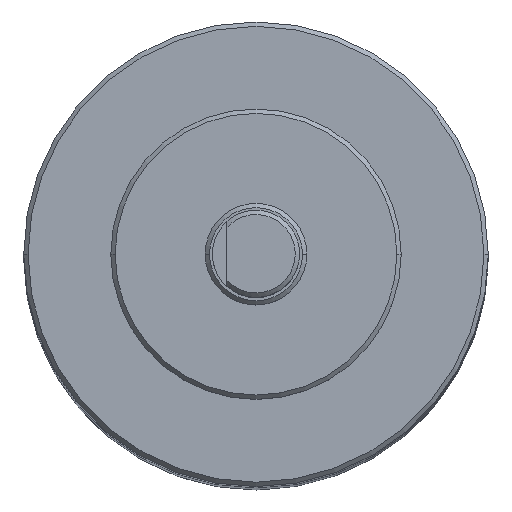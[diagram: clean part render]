
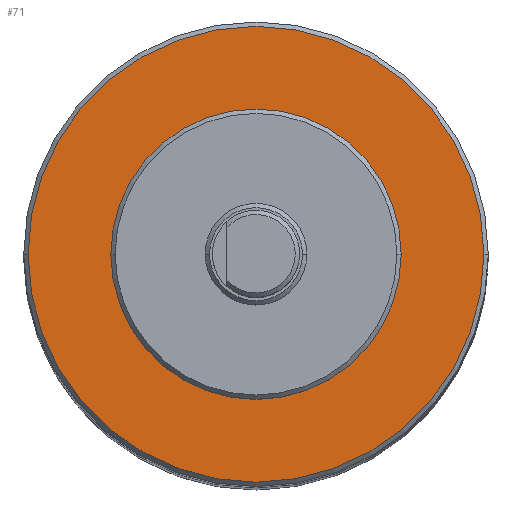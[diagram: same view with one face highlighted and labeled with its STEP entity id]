
A CAD part, top view. The second image highlights one B-rep face of the part: STEP entity #71.
In plain terms, the highlighted planar face has unit normal (0, 0, 1).
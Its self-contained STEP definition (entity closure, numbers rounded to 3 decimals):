
#22 = VERTEX_POINT ( 'NONE', #846 ) ;
#30 = EDGE_LOOP ( 'NONE', ( #945, #189 ) ) ;
#52 = DIRECTION ( 'NONE',  ( 1., 0., 0. ) ) ;
#64 = DIRECTION ( 'NONE',  ( 1., 0., 0. ) ) ;
#71 = ADVANCED_FACE ( 'NONE', ( #689, #796 ), #1006, .T. ) ;
#96 = CARTESIAN_POINT ( 'NONE',  ( 0., 0., 136.2 ) ) ;
#165 = DIRECTION ( 'NONE',  ( 1., 0., 0. ) ) ;
#189 = ORIENTED_EDGE ( 'NONE', *, *, #406, .T. ) ;
#203 = CARTESIAN_POINT ( 'NONE',  ( -10., 0., 136.2 ) ) ;
#243 = CIRCLE ( 'NONE', #769, 15.7 ) ;
#257 = DIRECTION ( 'NONE',  ( 0., 0., -1. ) ) ;
#266 = AXIS2_PLACEMENT_3D ( 'NONE', #1318, #895, #1338 ) ;
#333 = AXIS2_PLACEMENT_3D ( 'NONE', #800, #257, #165 ) ;
#406 = EDGE_CURVE ( 'NONE', #816, #1100, #974, .T. ) ;
#583 = EDGE_CURVE ( 'NONE', #22, #858, #243, .T. ) ;
#655 = CIRCLE ( 'NONE', #1015, 15.7 ) ;
#674 = EDGE_CURVE ( 'NONE', #1100, #816, #1293, .T. ) ;
#689 = FACE_BOUND ( 'NONE', #30, .T. ) ;
#739 = DIRECTION ( 'NONE',  ( 1., 0., 0. ) ) ;
#769 = AXIS2_PLACEMENT_3D ( 'NONE', #1026, #1018, #52 ) ;
#796 = FACE_OUTER_BOUND ( 'NONE', #956, .T. ) ;
#800 = CARTESIAN_POINT ( 'NONE',  ( 0., 0., 136.2 ) ) ;
#816 = VERTEX_POINT ( 'NONE', #203 ) ;
#846 = CARTESIAN_POINT ( 'NONE',  ( -15.7, 0., 136.2 ) ) ;
#858 = VERTEX_POINT ( 'NONE', #1144 ) ;
#895 = DIRECTION ( 'NONE',  ( 0., 0., 1. ) ) ;
#945 = ORIENTED_EDGE ( 'NONE', *, *, #674, .T. ) ;
#956 = EDGE_LOOP ( 'NONE', ( #1404, #1297 ) ) ;
#974 = CIRCLE ( 'NONE', #1205, 10. ) ;
#1006 = PLANE ( 'NONE',  #266 ) ;
#1015 = AXIS2_PLACEMENT_3D ( 'NONE', #1046, #1142, #64 ) ;
#1018 = DIRECTION ( 'NONE',  ( 0., 0., -1. ) ) ;
#1026 = CARTESIAN_POINT ( 'NONE',  ( 0., 0., 136.2 ) ) ;
#1046 = CARTESIAN_POINT ( 'NONE',  ( 0., 0., 136.2 ) ) ;
#1064 = CARTESIAN_POINT ( 'NONE',  ( 10., 0., 136.2 ) ) ;
#1100 = VERTEX_POINT ( 'NONE', #1064 ) ;
#1142 = DIRECTION ( 'NONE',  ( 0., 0., -1. ) ) ;
#1144 = CARTESIAN_POINT ( 'NONE',  ( 15.7, 0., 136.2 ) ) ;
#1205 = AXIS2_PLACEMENT_3D ( 'NONE', #96, #1282, #739 ) ;
#1267 = EDGE_CURVE ( 'NONE', #858, #22, #655, .T. ) ;
#1282 = DIRECTION ( 'NONE',  ( 0., 0., -1. ) ) ;
#1293 = CIRCLE ( 'NONE', #333, 10. ) ;
#1297 = ORIENTED_EDGE ( 'NONE', *, *, #1267, .F. ) ;
#1318 = CARTESIAN_POINT ( 'NONE',  ( 0., 0., 136.2 ) ) ;
#1338 = DIRECTION ( 'NONE',  ( 1., 0., 0. ) ) ;
#1404 = ORIENTED_EDGE ( 'NONE', *, *, #583, .F. ) ;
